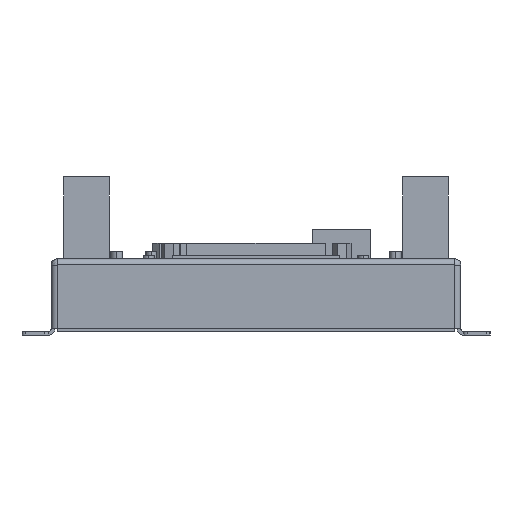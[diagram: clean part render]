
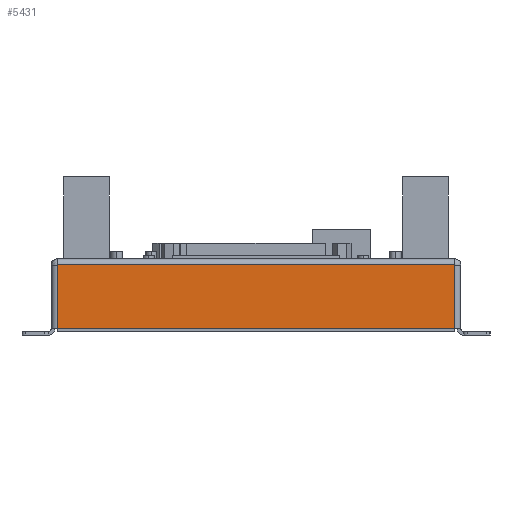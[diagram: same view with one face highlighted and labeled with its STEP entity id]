
A CAD part, left-side view. The second image highlights one B-rep face of the part: STEP entity #5431.
In plain terms, the highlighted planar face has unit normal (-1, 0, 0).
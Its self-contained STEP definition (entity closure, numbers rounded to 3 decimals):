
#98 = CARTESIAN_POINT ( 'NONE',  ( -90.2, 54.55, -21. ) ) ;
#219 = VERTEX_POINT ( 'NONE', #13715 ) ;
#1245 = DIRECTION ( 'NONE',  ( 1., 0., 0. ) ) ;
#1333 = DIRECTION ( 'NONE',  ( 0., 0., -1. ) ) ;
#1377 = AXIS2_PLACEMENT_3D ( 'NONE', #11716, #1245, #13471 ) ;
#1416 = ORIENTED_EDGE ( 'NONE', *, *, #10374, .F. ) ;
#1861 = DIRECTION ( 'NONE',  ( 0., 0., 1. ) ) ;
#2597 = EDGE_CURVE ( 'NONE', #15191, #8672, #15666, .T. ) ;
#2863 = LINE ( 'NONE', #8226, #15155 ) ;
#3013 = DIRECTION ( 'NONE',  ( 0., 1., 0. ) ) ;
#3053 = FACE_OUTER_BOUND ( 'NONE', #13040, .T. ) ;
#3484 = VERTEX_POINT ( 'NONE', #15489 ) ;
#3898 = CIRCLE ( 'NONE', #1377, 0.037 ) ;
#4554 = LINE ( 'NONE', #22231, #22044 ) ;
#4817 = EDGE_CURVE ( 'NONE', #3484, #21747, #19763, .T. ) ;
#5431 = ADVANCED_FACE ( 'NONE', ( #3053 ), #5588, .F. ) ;
#5588 = PLANE ( 'NONE',  #8817 ) ;
#6995 =( BOUNDED_CURVE ( )  B_SPLINE_CURVE ( 3, ( #10128, #11865, #20682, #10195 ),
 .UNSPECIFIED., .F., .F. ) 
 B_SPLINE_CURVE_WITH_KNOTS ( ( 4, 4 ),
 ( 0., 1. ),
 .UNSPECIFIED. ) 
 CURVE ( )  GEOMETRIC_REPRESENTATION_ITEM ( )  RATIONAL_B_SPLINE_CURVE ( ( 1.417, 1.14, 1.14, 1.417 ) ) 
 REPRESENTATION_ITEM ( '' )  );
#7995 = CARTESIAN_POINT ( 'NONE',  ( -90.2, -54.513, -1.7 ) ) ;
#8226 = CARTESIAN_POINT ( 'NONE',  ( -90.2, -56.25, -19.263 ) ) ;
#8672 = VERTEX_POINT ( 'NONE', #19579 ) ;
#8741 = ORIENTED_EDGE ( 'NONE', *, *, #12534, .F. ) ;
#8817 = AXIS2_PLACEMENT_3D ( 'NONE', #10758, #9116, #21345 ) ;
#9116 = DIRECTION ( 'NONE',  ( 1., 0., 0. ) ) ;
#10128 = CARTESIAN_POINT ( 'NONE',  ( -90.2, 54.55, -1.737 ) ) ;
#10195 = CARTESIAN_POINT ( 'NONE',  ( -90.2, 54.513, -1.7 ) ) ;
#10374 = EDGE_CURVE ( 'NONE', #21747, #219, #6995, .T. ) ;
#10452 = VECTOR ( 'NONE', #1861, 1000. ) ;
#10758 = CARTESIAN_POINT ( 'NONE',  ( -90.2, -56.25, -21. ) ) ;
#11024 = VECTOR ( 'NONE', #1333, 1000. ) ;
#11293 = ORIENTED_EDGE ( 'NONE', *, *, #13575, .F. ) ;
#11716 = CARTESIAN_POINT ( 'NONE',  ( -90.2, -54.513, -1.737 ) ) ;
#11865 = CARTESIAN_POINT ( 'NONE',  ( -90.2, 54.55, -1.715 ) ) ;
#11953 = VERTEX_POINT ( 'NONE', #7995 ) ;
#12534 = EDGE_CURVE ( 'NONE', #219, #11953, #4554, .T. ) ;
#13040 = EDGE_LOOP ( 'NONE', ( #14152, #20694, #8741, #1416, #19543, #11293 ) ) ;
#13471 = DIRECTION ( 'NONE',  ( 0., 0., 1. ) ) ;
#13575 = EDGE_CURVE ( 'NONE', #8672, #3484, #2863, .T. ) ;
#13715 = CARTESIAN_POINT ( 'NONE',  ( -90.2, 54.513, -1.7 ) ) ;
#14152 = ORIENTED_EDGE ( 'NONE', *, *, #2597, .F. ) ;
#15155 = VECTOR ( 'NONE', #3013, 1000. ) ;
#15191 = VERTEX_POINT ( 'NONE', #21957 ) ;
#15295 = DIRECTION ( 'NONE',  ( 0., -1., 0. ) ) ;
#15489 = CARTESIAN_POINT ( 'NONE',  ( -90.2, 54.55, -19.263 ) ) ;
#15666 = LINE ( 'NONE', #20458, #11024 ) ;
#17841 = CARTESIAN_POINT ( 'NONE',  ( -90.2, 54.55, -1.737 ) ) ;
#19543 = ORIENTED_EDGE ( 'NONE', *, *, #4817, .F. ) ;
#19579 = CARTESIAN_POINT ( 'NONE',  ( -90.2, -54.55, -19.263 ) ) ;
#19763 = LINE ( 'NONE', #98, #10452 ) ;
#20458 = CARTESIAN_POINT ( 'NONE',  ( -90.2, -54.55, -21. ) ) ;
#20682 = CARTESIAN_POINT ( 'NONE',  ( -90.2, 54.535, -1.7 ) ) ;
#20694 = ORIENTED_EDGE ( 'NONE', *, *, #21407, .F. ) ;
#21345 = DIRECTION ( 'NONE',  ( 0., 0., -1. ) ) ;
#21407 = EDGE_CURVE ( 'NONE', #11953, #15191, #3898, .T. ) ;
#21747 = VERTEX_POINT ( 'NONE', #17841 ) ;
#21957 = CARTESIAN_POINT ( 'NONE',  ( -90.2, -54.55, -1.737 ) ) ;
#22044 = VECTOR ( 'NONE', #15295, 1000. ) ;
#22231 = CARTESIAN_POINT ( 'NONE',  ( -90.2, -54.811, -1.7 ) ) ;
